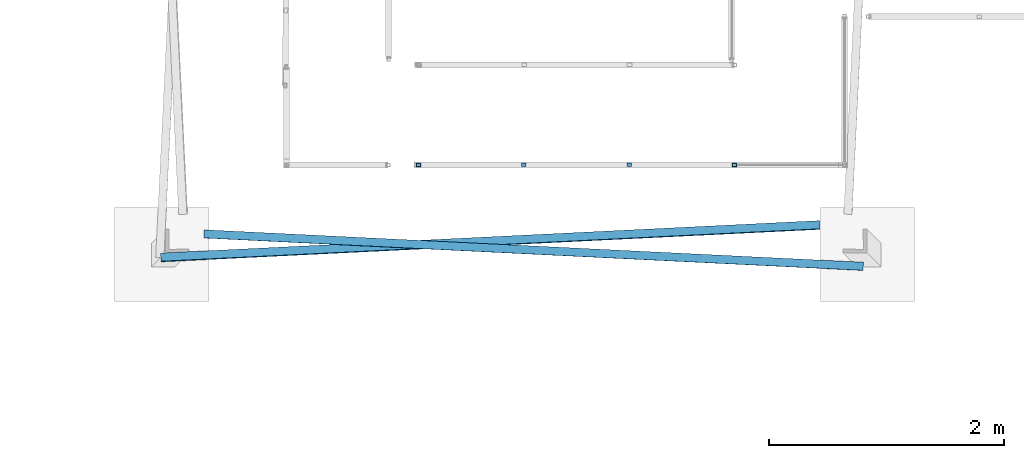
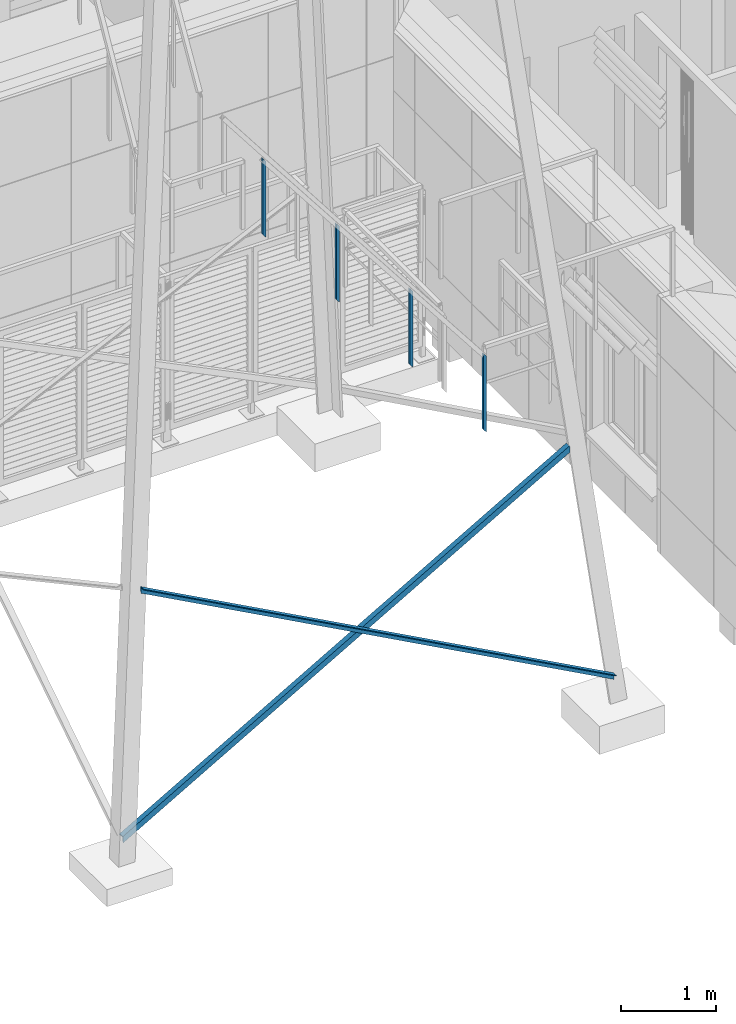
# One storey, part 6 of 418: 4 members, 2 beams, 1 element without a shape of its own.
"""IFC2X3 building model written with IfcOpenShell, lengths in millimetres."""

from ifc_helpers import new_model, entity, si_unit, converted_unit, derived_unit, money_unit, direction, frame, origin_with_axes, place, context, subcontext, project, spatial, polyline, outline, extrude, clip, halfspace, faceted_brep, source, transform, mapped, material, type_object, element, aggregate, save


model = new_model("IFC2X3")

# Units and contexts
model_context = context("Model", 3, precision=0.01, world=origin_with_axes(), true_north=direction((0.0, 1.0)))
body_context = subcontext(model_context, "Body", "Model", "MODEL_VIEW")
ifc_project = project(units=[si_unit("LENGTHUNIT", "METRE", prefix="MILLI"), si_unit("AREAUNIT", "SQUARE_METRE"), si_unit("VOLUMEUNIT", "CUBIC_METRE"), converted_unit("PLANEANGLEUNIT", "DEGREE", entity("IfcPlaneAngleMeasure", 0.0174532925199), si_unit("PLANEANGLEUNIT", "RADIAN"), dimensions=[0, 0, 0, 0, 0, 0, 0]), si_unit("SOLIDANGLEUNIT", "STERADIAN"), money_unit("EUR"), converted_unit("TIMEUNIT", "Year", entity("IfcTimeMeasure", 31556926.0), si_unit("TIMEUNIT", "SECOND"), dimensions=[0, 0, 1, 0, 0, 0, 0]), si_unit("MASSUNIT", "GRAM", prefix="KILO"), si_unit("THERMODYNAMICTEMPERATUREUNIT", "DEGREE_CELSIUS"), si_unit("LUMINOUSINTENSITYUNIT", "LUMEN"), si_unit("ENERGYUNIT", "JOULE", prefix="MEGA"), derived_unit("THERMALCONDUCTANCEUNIT", [(si_unit("POWERUNIT", "WATT"), 1), (si_unit("LENGTHUNIT", "METRE"), -1), (si_unit("THERMODYNAMICTEMPERATUREUNIT", "KELVIN"), -1)]), derived_unit("SPECIFICHEATCAPACITYUNIT", [(si_unit("ENERGYUNIT", "JOULE"), 1), (si_unit("MASSUNIT", "GRAM", prefix="KILO"), -1), (si_unit("THERMODYNAMICTEMPERATUREUNIT", "KELVIN"), -1)]), derived_unit("MASSDENSITYUNIT", [(si_unit("MASSUNIT", "GRAM", prefix="KILO"), 1), (si_unit("VOLUMEUNIT", "CUBIC_METRE"), -1)])], contexts=[model_context])

# Site, building, storey
site_placement = place(None, origin_with_axes())
site = spatial("IfcSite", under=ifc_project, at=site_placement, Name="Paldiski mnt 245/1, Tallinn, Harjumaa", CompositionType="COMPLEX")
building_placement = place(site_placement, origin_with_axes())
building = spatial("IfcBuilding", under=site, at=building_placement, Name="RKAS Hoone üldnimetus (kasutust iseloomustav) -> IFC Project Manager -> SOLIBRI", CompositionType="ELEMENT")
storey_placement = place(building_placement, origin_with_axes())
storey = spatial("IfcBuildingStorey", under=building, at=storey_placement, Name="Esimene korrus", CompositionType="ELEMENT", Elevation=0.0)

# Beams
ifc_material_1 = material(Name="SV-03_Plaat - Põrand")
beam_type = type_object("IfcBeamType", Name="TORN_KONST_5 70 x 70", PredefinedType="BEAM")
beam_1_placement = place(storey_placement, frame((-56045.0760952, -8240.84578808, 282.411597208), z_axis=(0.0, 0.0, 1.0), x_axis=(0.0491692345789, -0.998790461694, 0.0)))
element("IfcBeam", 1, at=beam_1_placement, inside=storey, type_object=beam_type, material=ifc_material_1, Name="TALA", ObjectType="BEAM", context=body_context, shape_type="Clipping", body=[
    clip(clip(extrude(outline(polyline([(0.0, 0.0), (0.0, 70.0), (-70.0, 70.0), (-70.0, 60.0), (-10.0, 60.0), (-10.0, 0.0), (0.0, 0.0)])), frame((0.0, 5654.86408347, 2928.159223), z_axis=(0.0, -0.888010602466, -0.459822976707), x_axis=(0.996194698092, -0.0400762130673, 0.0773952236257)), (0.0, 0.0, 1.0), 6419.27497254), halfspace(frame((0.0, 0.0, 0.0), z_axis=(0.0, 1.0, 0.0), x_axis=(0.0, 0.0, 1.0)), True)), halfspace(frame((0.0, 5609.34393117, 0.0), z_axis=(0.0, -1.0, 0.0), x_axis=(0.0, 0.0, -1.0)), True)),
])
beam_2_placement = place(storey_placement, frame((-50075.2638432, -8250.32644031, 307.999958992), z_axis=(0.0, 0.0, 1.0), x_axis=(0.0491692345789, 0.998790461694, 0.0)))
element("IfcBeam", 2, at=beam_2_placement, inside=storey, type_object=beam_type, material=ifc_material_1, Name="TALA", ObjectType="BEAM", context=body_context, shape_type="Clipping", body=[
    clip(clip(extrude(outline(polyline([(0.0, 0.0), (0.0, 70.0), (-70.0, 70.0), (-70.0, 60.0), (-10.0, 60.0), (-10.0, 0.0), (0.0, 0.0)])), frame((0.0, 5654.86408347, 2928.159223), z_axis=(0.0, -0.888010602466, -0.459822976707), x_axis=(0.994521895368, 0.0480645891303, -0.0928223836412)), (0.0, 0.0, 1.0), 6419.27497254), halfspace(frame((0.0, 0.0, 0.0), z_axis=(0.0, 1.0, 0.0), x_axis=(0.0, 0.0, 1.0)), True)), halfspace(frame((0.0, 5609.34393117, 0.0), z_axis=(0.0, -1.0, 0.0), x_axis=(0.0, 0.0, -1.0)), True)),
])

# Railing, members
railing_type = type_object("IfcRailingType", Name="Railing Type", PredefinedType="NOTDEFINED")
railing_placement = place(storey_placement, frame((-51169.8755361, -7415.24631697, 3489.375), z_axis=(0.0, 0.0, 1.0), x_axis=(-0.773149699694, -0.634223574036, 0.0)))
railing = element("IfcRailing", 3, at=railing_placement, inside=storey, type_object=railing_type, Name="PIIRE", PredefinedType="NOTDEFINED")
ifc_material_2 = material(Name="ET-06_Teras - Konstruktsioon")
member_type = type_object("IfcMemberType", Name="IfcMember", PredefinedType="POST")
shared_shape_1 = source(origin_with_axes(), body_context, "Body", "Brep", [
    faceted_brep([(15.0, 20.0, 25.6913470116), (-15.0, 20.0, 25.6913470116), (-15.0, 20.0, 1005.69134701), (15.0, 20.0, 1005.69134701), (15.0, -20.0, -25.6913470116), (-15.0, -20.0, -25.6913470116), (10.0, 15.0, 19.2685102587), (-10.0, 15.0, 19.2685102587), (-10.0, -15.0, -19.2685102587), (10.0, -15.0, -19.2685102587), (-15.0, -20.0, 954.308652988), (15.0, -20.0, 954.308652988), (10.0, 15.0, 999.268510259), (10.0, -15.0, 960.731489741), (-10.0, -15.0, 960.731489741), (-10.0, 15.0, 999.268510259)], [[[0, 1, 2, 3]], [[0, 4, 5, 1], [6, 7, 8, 9]], [[1, 5, 10, 2]], [[3, 2, 10, 11], [12, 13, 14, 15]], [[4, 0, 3, 11]], [[5, 4, 11, 10]], [[7, 6, 12, 15]], [[8, 7, 15, 14]], [[9, 8, 14, 13]], [[6, 9, 13, 12]]]),
])
member_1_placement = place(railing_placement, frame((0.0, 0.0, -100.0), z_axis=(0.0, 0.0, 1.0), x_axis=(-0.773149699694, 0.634223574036, 0.0)))
member_1 = element("IfcMember", 4, at=member_1_placement, type_object=member_type, material=ifc_material_2, Name="PIIRDE POST - 001", ObjectType="POST", context=body_context, shape_type="MappedRepresentation", body=[
    mapped(shared_shape_1, transform((0.0, 0.0, 0.0), x_axis=(0.0, 1.0, 0.0), y_axis=(-1.0, 0.0, 0.0), z_axis=(0.0, 0.0, 1.0))),
])
member_2_placement = place(railing_placement, frame((2077.65929297, -1704.32776853, 3351.97481735), z_axis=(0.0, 0.0, 1.0), x_axis=(-0.773149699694, 0.634223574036, 0.0)))
member_2 = element("IfcMember", 5, at=member_2_placement, type_object=member_type, material=ifc_material_2, Name="PIIRDE POST - 001", ObjectType="POST", context=body_context, shape_type="MappedRepresentation", body=[
    mapped(shared_shape_1, transform((0.0, 0.0, 0.0), x_axis=(0.0, 1.0, 0.0), y_axis=(-1.0, 0.0, 0.0), z_axis=(0.0, 0.0, 1.0))),
])
ifc_material_3 = material(Name="ET-07_Teras - Roostevaba")
shared_shape_2 = source(origin_with_axes(), body_context, "Body", "Brep", [
    faceted_brep([(15.0, 20.0, 25.6913470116), (-15.0, 20.0, 25.6913470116), (-15.0, 20.0, 1005.69134701), (15.0, 20.0, 1005.69134701), (15.0, -20.0, -25.6913470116), (-15.0, -20.0, -25.6913470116), (-15.0, -20.0, 954.308652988), (15.0, -20.0, 954.308652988)], [[[0, 1, 2, 3]], [[0, 4, 5, 1]], [[1, 5, 6, 2]], [[3, 2, 6, 7]], [[4, 0, 3, 7]], [[5, 4, 7, 6]]]),
])
member_3_placement = place(railing_placement, frame((692.553097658, -568.109256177, 1050.65827245), z_axis=(0.0, 0.0, 1.0), x_axis=(-0.773149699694, 0.634223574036, 0.0)))
member_3 = element("IfcMember", 6, at=member_3_placement, type_object=member_type, material=ifc_material_3, Name="Piirde Post - 001", ObjectType="POST", context=body_context, shape_type="MappedRepresentation", body=[
    mapped(shared_shape_2, transform((0.0, 0.0, 0.0), x_axis=(0.0, 1.0, 0.0), y_axis=(-1.0, 0.0, 0.0), z_axis=(0.0, 0.0, 1.0))),
])
member_4_placement = place(railing_placement, frame((1385.10619532, -1136.21851235, 2201.3165449), z_axis=(0.0, 0.0, 1.0), x_axis=(-0.773149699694, 0.634223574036, 0.0)))
member_4 = element("IfcMember", 7, at=member_4_placement, type_object=member_type, material=ifc_material_3, Name="Piirde Post - 001", ObjectType="POST", context=body_context, shape_type="MappedRepresentation", body=[
    mapped(shared_shape_2, transform((0.0, 0.0, 0.0), x_axis=(0.0, 1.0, 0.0), y_axis=(-1.0, 0.0, 0.0), z_axis=(0.0, 0.0, 1.0))),
])
aggregate(railing, [member_1, member_2, member_3, member_4])

save(model, "model.ifc")
